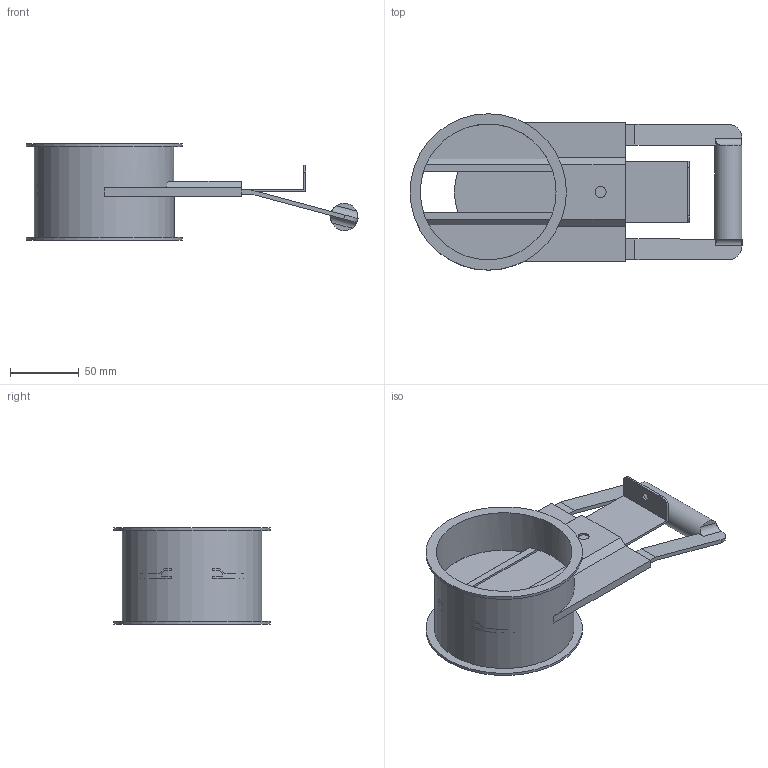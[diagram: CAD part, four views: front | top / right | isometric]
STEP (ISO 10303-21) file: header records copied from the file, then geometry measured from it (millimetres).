
FILE_DESCRIPTION((''),'2;1');
FILE_NAME('U:\Wolfgang\Marcel-3D\fertig\Kapitel 9\1021079.stp','2011-10-11T12:57:50',('iwienholt'),(''),'Autodesk Inventor 2010','Autodesk Inventor 2010','');
FILE_SCHEMA(('AUTOMOTIVE_DESIGN { 1 0 10303 214 1 1 1 1 }'));
Length unit declared in the file: millimetre
Products named in the file (4): 1021079; Dosierzunge DN100; Rohr mit Führung DN100; Schieberblech DN100
Assembly tree (3 placements, depth 2):
  1021079
    Dosierzunge DN100
    Rohr mit Führung DN100
    Schieberblech DN100
Bounding box: 242.03 x 114 x 70 mm (x, y, z)
Volume: 132519.1 mm3; surface area: 136386.2 mm2
Topology: 3 solids, 3 shells, 84 faces, 236 edges, 157 vertices
Faces by surface type: plane 57, cylinder 19, bspline 8
Full cylindrical faces by diameter (mm): 20 x1, 99 x1, 102 x1, 114 x2
Entity records: 2881 total; most frequent: CARTESIAN_POINT 622, ORIENTED_EDGE 446, DIRECTION 445, EDGE_CURVE 223, VERTEX_POINT 152, VECTOR 151, LINE 151, AXIS2_PLACEMENT_3D 147
